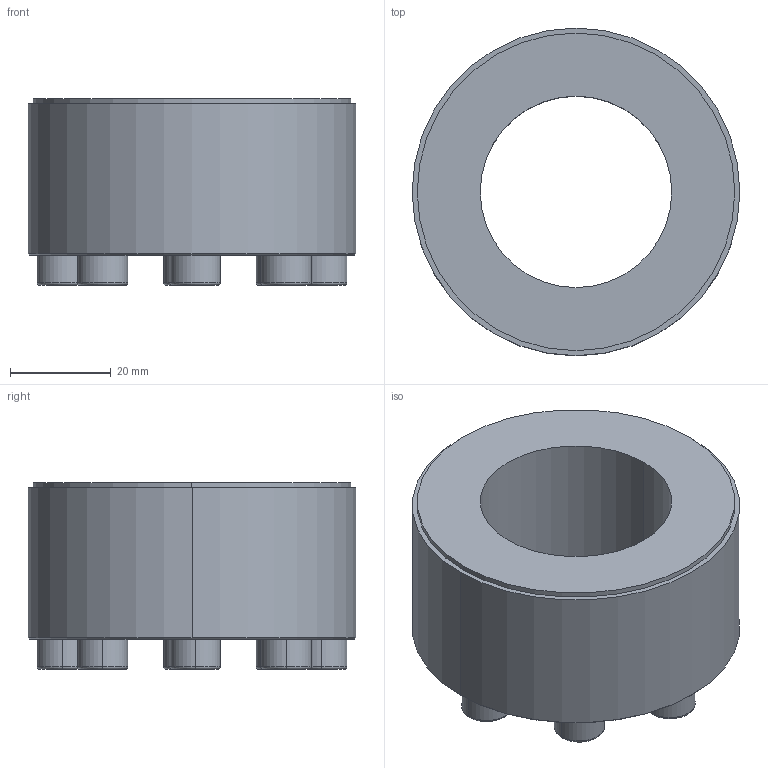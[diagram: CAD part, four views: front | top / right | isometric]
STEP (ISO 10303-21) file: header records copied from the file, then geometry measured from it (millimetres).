
FILE_DESCRIPTION (( 'STEP AP203' ), '1' );
FILE_NAME ('PL-B 38-65.STEP', '2021-10-22T07:47:37', ( '' ), ( '' ), 'SwSTEP 2.0', 'SolidWorks 2018', '' );
FILE_SCHEMA (( 'CONFIG_CONTROL_DESIGN' ));
Length unit declared in the file: millimetre
Products named in the file (1): PL-B 38-65
Bounding box: 65 x 65 x 37 mm (x, y, z)
Volume: 70739.5 mm3; surface area: 16224.1 mm2
Topology: 1 solids, 1 shells, 109 faces, 250 edges, 160 vertices
Faces by surface type: plane 67, cylinder 22, torus 16, cone 4
Entity records: 3145 total; most frequent: DIRECTION 550, CARTESIAN_POINT 520, ORIENTED_EDGE 500, EDGE_CURVE 250, AXIS2_PLACEMENT_3D 190, VECTOR 170, LINE 170, VERTEX_POINT 160
